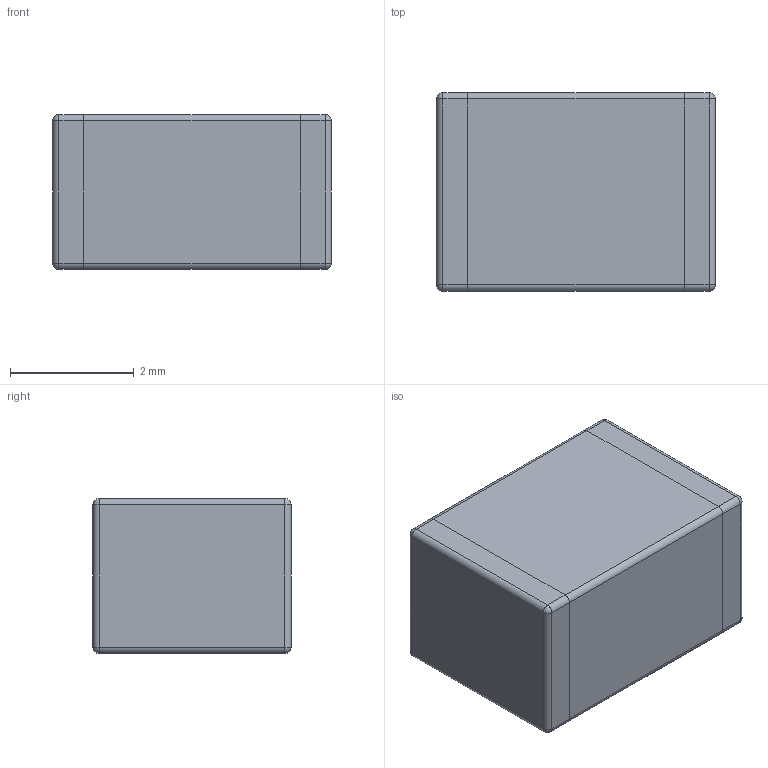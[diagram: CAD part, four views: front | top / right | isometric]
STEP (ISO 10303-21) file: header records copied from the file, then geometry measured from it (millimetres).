
FILE_DESCRIPTION(('FreeCAD Model'),'2;1');
FILE_NAME('Open CASCADE Shape Model','2022-02-08T11:21:44',(''),(''), 'Open CASCADE STEP processor 7.5','FreeCAD','Unknown');
FILE_SCHEMA(('AUTOMOTIVE_DESIGN { 1 0 10303 214 1 1 1 1 }'));
Length unit declared in the file: millimetre
Products named in the file (1): Fillet
Bounding box: 4.5 x 3.2 x 2.5 mm (x, y, z)
Volume: 35.9 mm3; surface area: 65.5 mm2
Topology: 1 solids, 1 shells, 42 faces, 88 edges, 40 vertices
Faces by surface type: cylinder 20, plane 14, sphere 8
Entity records: 2326 total; most frequent: CARTESIAN_POINT 371, DIRECTION 310, ORIENTED_EDGE 160, LINE 160, VECTOR 160, PCURVE 160, DEFINITIONAL_REPRESENTATION 160, EDGE_CURVE 80
